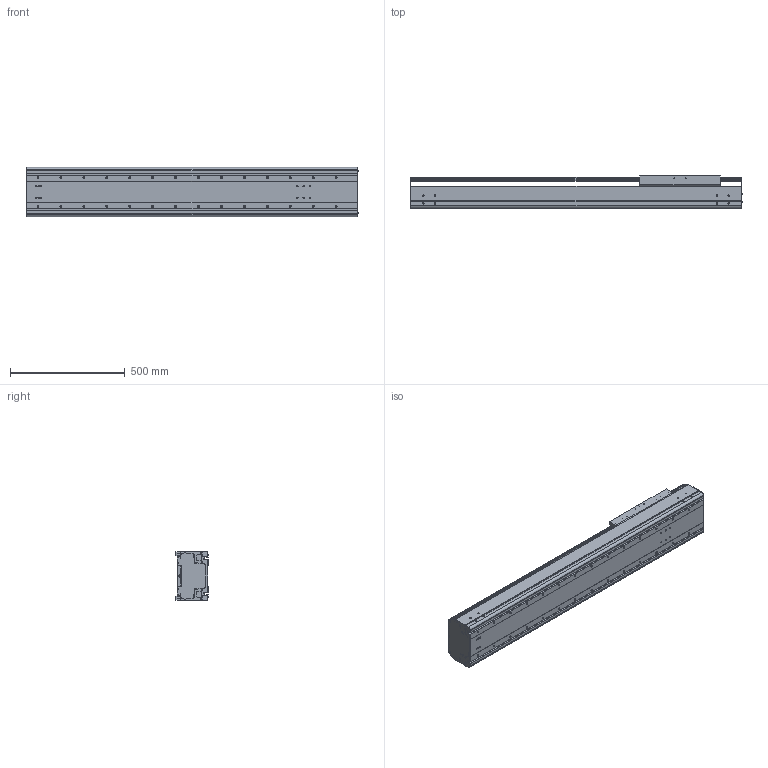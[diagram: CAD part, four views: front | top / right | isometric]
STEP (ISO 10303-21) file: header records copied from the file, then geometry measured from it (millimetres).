
FILE_DESCRIPTION((''),'2;1');
FILE_NAME('BE60G-ST-L_B-95_IGS_PRT','2017-06-18T',(' '),(''),'PRO/ENGINEER BY PARAMETRIC TECHNOLOGY CORPORATION, 2015030','PRO/ENGINEER BY PARAMETRIC TECHNOLOGY CORPORATION, 2015030','');
FILE_SCHEMA(('CONFIG_CONTROL_DESIGN'));
Length unit declared in the file: millimetre
Products named in the file (1): BE60G-ST-L_B-95_IGS_PRT
Bounding box: 1447.4 x 140 x 214 mm (x, y, z)
Volume: 2701118.7 mm3; surface area: 3176076.5 mm2
Topology: 2 solids, 149 shells, 1590 faces, 4412 edges, 2908 vertices
Faces by surface type: cylinder 824, plane 602, cone 116, torus 24, sphere 24
Entity records: 52740 total; most frequent: CARTESIAN_POINT 11813, DIRECTION 8632, ORIENTED_EDGE 8016, EDGE_CURVE 4300, AXIS2_PLACEMENT_3D 3227, VERTEX_POINT 2908, VECTOR 2178, LINE 2178
